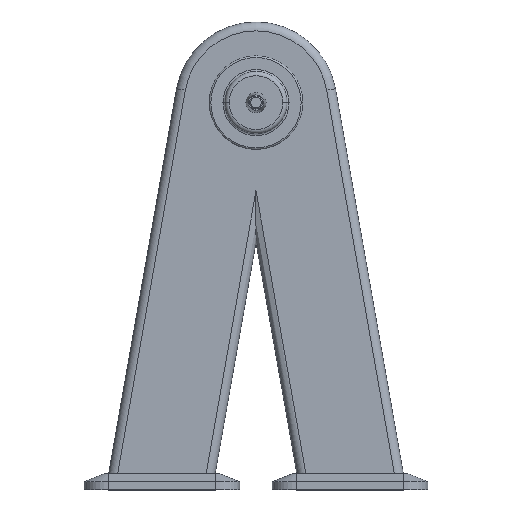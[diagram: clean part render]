
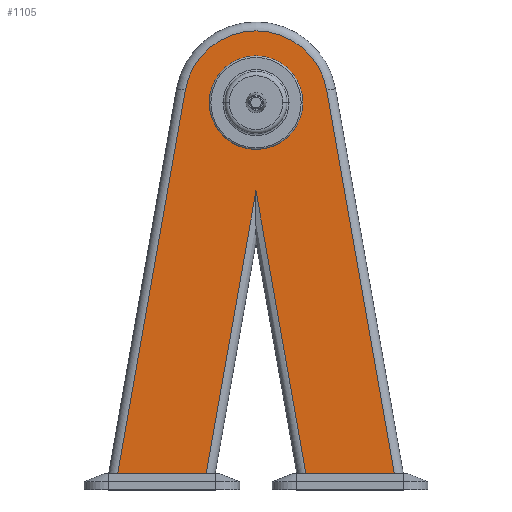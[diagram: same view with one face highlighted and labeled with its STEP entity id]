
A CAD part, top view. The second image highlights one B-rep face of the part: STEP entity #1105.
In plain terms, the highlighted planar face has unit normal (0, 0, 1).
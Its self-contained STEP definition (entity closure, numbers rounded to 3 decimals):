
#103 = EDGE_CURVE ( 'NONE', #1240, #2803, #3451, .T. ) ;
#205 = PLANE ( 'NONE',  #2748 ) ;
#213 = CARTESIAN_POINT ( 'NONE',  ( -176.405, -7.91, 63. ) ) ;
#273 = DIRECTION ( 'NONE',  ( -1., 0., 0. ) ) ;
#279 = CARTESIAN_POINT ( 'NONE',  ( 0., 20., 63. ) ) ;
#326 = EDGE_CURVE ( 'NONE', #588, #2803, #4237, .T. ) ;
#396 = EDGE_CURVE ( 'NONE', #1008, #403, #1482, .T. ) ;
#403 = VERTEX_POINT ( 'NONE', #1882 ) ;
#490 = FACE_BOUND ( 'NONE', #3919, .T. ) ;
#544 = DIRECTION ( 'NONE',  ( -0.174, -0.985, 0. ) ) ;
#550 = DIRECTION ( 'NONE',  ( 0., 0., 1. ) ) ;
#563 = EDGE_CURVE ( 'NONE', #3508, #588, #2685, .T. ) ;
#588 = VERTEX_POINT ( 'NONE', #1118 ) ;
#644 = CIRCLE ( 'NONE', #1746, 58. ) ;
#679 = CARTESIAN_POINT ( 'NONE',  ( 0., 480., 63. ) ) ;
#754 = CARTESIAN_POINT ( 'NONE',  ( 87.648, 495.455, 63. ) ) ;
#763 = LINE ( 'NONE', #279, #3381 ) ;
#808 = EDGE_CURVE ( 'NONE', #3508, #4272, #763, .T. ) ;
#928 = ORIENTED_EDGE ( 'NONE', *, *, #396, .F. ) ;
#976 = ORIENTED_EDGE ( 'NONE', *, *, #3616, .T. ) ;
#990 = CARTESIAN_POINT ( 'NONE',  ( -87.648, 495.455, 63. ) ) ;
#1008 = VERTEX_POINT ( 'NONE', #2922 ) ;
#1037 = DIRECTION ( 'NONE',  ( 1., 0., 0. ) ) ;
#1105 = ADVANCED_FACE ( 'NONE', ( #490, #3981 ), #205, .T. ) ;
#1114 = VECTOR ( 'NONE', #544, 1000. ) ;
#1118 = CARTESIAN_POINT ( 'NONE',  ( 0., 370.583, 63. ) ) ;
#1124 = DIRECTION ( 'NONE',  ( 0.174, 0.985, 0. ) ) ;
#1135 = CARTESIAN_POINT ( 'NONE',  ( -10.833, 309.147, 63. ) ) ;
#1225 = LINE ( 'NONE', #213, #1114 ) ;
#1240 = VERTEX_POINT ( 'NONE', #2727 ) ;
#1270 = EDGE_CURVE ( 'NONE', #403, #1008, #644, .T. ) ;
#1482 = CIRCLE ( 'NONE', #2774, 58. ) ;
#1746 = AXIS2_PLACEMENT_3D ( 'NONE', #2068, #4336, #2431 ) ;
#1764 = VECTOR ( 'NONE', #1124, 1000. ) ;
#1855 = VERTEX_POINT ( 'NONE', #990 ) ;
#1862 = CARTESIAN_POINT ( 'NONE',  ( 0., 20., 63. ) ) ;
#1882 = CARTESIAN_POINT ( 'NONE',  ( -58., 480., 63. ) ) ;
#1895 = DIRECTION ( 'NONE',  ( 1., 0., 0. ) ) ;
#1916 = DIRECTION ( 'NONE',  ( 0., 0., 1. ) ) ;
#1918 = CARTESIAN_POINT ( 'NONE',  ( 0., 480., 63. ) ) ;
#1928 = CARTESIAN_POINT ( 'NONE',  ( 61.817, 20., 63. ) ) ;
#1979 = ORIENTED_EDGE ( 'NONE', *, *, #808, .F. ) ;
#1983 = ORIENTED_EDGE ( 'NONE', *, *, #103, .F. ) ;
#2068 = CARTESIAN_POINT ( 'NONE',  ( 0., 480., 63. ) ) ;
#2182 = DIRECTION ( 'NONE',  ( -1., 0., 0. ) ) ;
#2431 = DIRECTION ( 'NONE',  ( 1., 0., 0. ) ) ;
#2443 = CARTESIAN_POINT ( 'NONE',  ( 87.648, 495.455, 63. ) ) ;
#2513 = VERTEX_POINT ( 'NONE', #2443 ) ;
#2547 = DIRECTION ( 'NONE',  ( 0.174, -0.985, 0. ) ) ;
#2571 = CARTESIAN_POINT ( 'NONE',  ( 67.93, -14.664, 63. ) ) ;
#2685 = LINE ( 'NONE', #1135, #1764 ) ;
#2719 = EDGE_LOOP ( 'NONE', ( #1979, #2973, #3017, #1983, #3021, #976, #3070 ) ) ;
#2727 = CARTESIAN_POINT ( 'NONE',  ( 171.483, 20., 63. ) ) ;
#2748 = AXIS2_PLACEMENT_3D ( 'NONE', #3598, #550, #2974 ) ;
#2774 = AXIS2_PLACEMENT_3D ( 'NONE', #1918, #1916, #1895 ) ;
#2803 = VERTEX_POINT ( 'NONE', #1928 ) ;
#2895 = CIRCLE ( 'NONE', #3025, 89. ) ;
#2922 = CARTESIAN_POINT ( 'NONE',  ( 58., 480., 63. ) ) ;
#2925 = ORIENTED_EDGE ( 'NONE', *, *, #1270, .F. ) ;
#2942 = LINE ( 'NONE', #754, #3788 ) ;
#2973 = ORIENTED_EDGE ( 'NONE', *, *, #563, .T. ) ;
#2974 = DIRECTION ( 'NONE',  ( 1., 0., 0. ) ) ;
#3017 = ORIENTED_EDGE ( 'NONE', *, *, #326, .T. ) ;
#3021 = ORIENTED_EDGE ( 'NONE', *, *, #4261, .T. ) ;
#3025 = AXIS2_PLACEMENT_3D ( 'NONE', #679, #3086, #1037 ) ;
#3070 = ORIENTED_EDGE ( 'NONE', *, *, #3391, .T. ) ;
#3086 = DIRECTION ( 'NONE',  ( 0., 0., 1. ) ) ;
#3155 = CARTESIAN_POINT ( 'NONE',  ( -171.483, 20., 63. ) ) ;
#3252 = VECTOR ( 'NONE', #2182, 1000. ) ;
#3345 = CARTESIAN_POINT ( 'NONE',  ( -61.817, 20., 63. ) ) ;
#3381 = VECTOR ( 'NONE', #273, 1000. ) ;
#3391 = EDGE_CURVE ( 'NONE', #1855, #4272, #1225, .T. ) ;
#3451 = LINE ( 'NONE', #1862, #3252 ) ;
#3479 = DIRECTION ( 'NONE',  ( -0.174, 0.985, 0. ) ) ;
#3508 = VERTEX_POINT ( 'NONE', #3345 ) ;
#3598 = CARTESIAN_POINT ( 'NONE',  ( 0., 480., 63. ) ) ;
#3616 = EDGE_CURVE ( 'NONE', #2513, #1855, #2895, .T. ) ;
#3788 = VECTOR ( 'NONE', #3479, 1000. ) ;
#3919 = EDGE_LOOP ( 'NONE', ( #2925, #928 ) ) ;
#3981 = FACE_OUTER_BOUND ( 'NONE', #2719, .T. ) ;
#4237 = LINE ( 'NONE', #2571, #4333 ) ;
#4261 = EDGE_CURVE ( 'NONE', #1240, #2513, #2942, .T. ) ;
#4272 = VERTEX_POINT ( 'NONE', #3155 ) ;
#4333 = VECTOR ( 'NONE', #2547, 1000. ) ;
#4336 = DIRECTION ( 'NONE',  ( 0., 0., 1. ) ) ;
